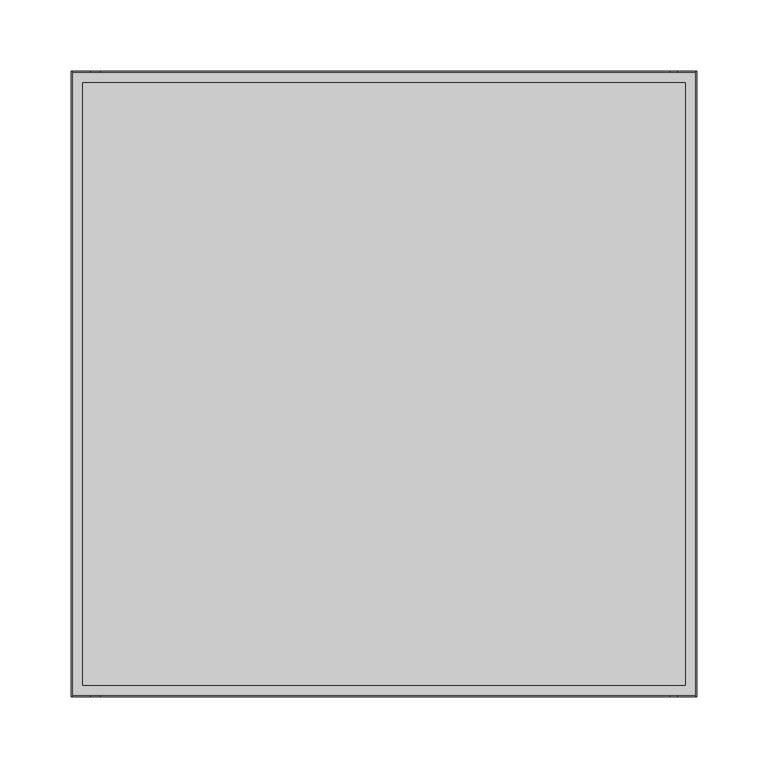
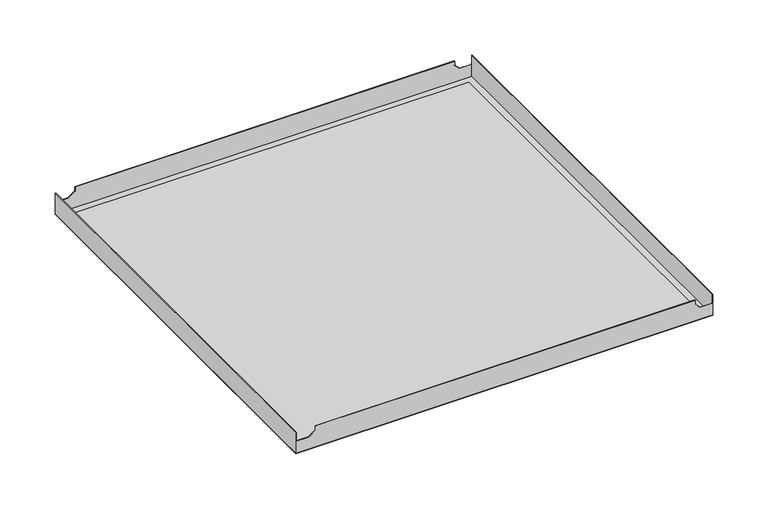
"""IFC4 building model written with IfcOpenShell, lengths in millimetres: proxy geometry, durlum_S1_panel : durlum_S1_panel_wall_corner."""

from ifc_helpers import new_model, si_unit, frame, origin, origin_with_axes, place, context, project, spatial, polyline, outline, extrude, faceted_brep, source, transform, mapped, element, save


def generic_models_eb6e0cd6(model_context):
    return source(origin(), model_context, "Body", "SolidModel", [
        faceted_brep([(-218.75, 218.75, 23.5), (-218.75, -218.75, 23.5), (-218.15, -218.75, 23.5), (-218.15, 218.75, 23.5), (218.75, -218.75, 23.5), (218.75, 218.75, 23.5), (218.15, 218.75, 23.5), (218.15, -218.75, 23.5), (-198.15, 218.75, 23.5), (-198.15, 218.15, 23.5), (200.15, 218.15, 23.5), (200.15, 218.75, 23.5), (-198.15, -218.15, 23.5), (-198.15, -218.75, 23.5), (200.15, -218.75, 23.5), (200.15, -218.15, 23.5), (218.75, 218.75, 0.6), (218.75, -218.75, 0.6), (-218.75, -218.75, 0.6), (-218.75, 218.75, 0.6), (218.15, 218.15, 0.6), (-218.15, 218.15, 0.6), (-218.15, -218.15, 0.6), (218.15, -218.15, 0.6), (-218.15, 218.75, 13.6669893), (-205.4158218, 218.75, 13.6669893), (-198.15, 218.75, 18.9328111), (200.15, 218.75, 18.9469988), (205.4300094, 218.75, 13.6669893), (218.15, 218.75, 13.6669893), (218.15, -218.75, 13.6669893), (205.4300094, -218.75, 13.6669893), (200.15, -218.75, 18.9469988), (-198.15, -218.75, 18.9328111), (-205.4158218, -218.75, 13.6669893), (-218.15, -218.75, 13.6669893), (218.15, 218.15, 13.6669893), (218.15, -218.15, 13.6669893), (-218.15, -218.15, 13.6669893), (-205.4158218, -218.15, 13.6669893), (-198.15, -218.15, 18.9328111), (200.15, -218.15, 18.9469988), (205.4300094, -218.15, 13.6669893), (-218.15, 218.15, 13.6669893), (205.4300094, 218.15, 13.6669893), (200.15, 218.15, 18.9469988), (-198.15, 218.15, 18.9328111), (-205.4158218, 218.15, 13.6669893)], [[[0, 1, 2, 3]], [[4, 5, 6, 7]], [[8, 9, 10, 11]], [[12, 13, 14, 15]], [[16, 17, 18, 19], [20, 21, 22, 23]], [[16, 19, 0, 3, 24, 25, 26, 8, 11, 27, 28, 29, 6, 5]], [[1, 0, 19, 18]], [[18, 17, 4, 7, 30, 31, 32, 14, 13, 33, 34, 35, 2, 1]], [[5, 4, 17, 16]], [[6, 29, 36, 20, 23, 37, 30, 7]], [[23, 22, 38, 39, 40, 12, 15, 41, 42, 37]], [[22, 21, 43, 24, 3, 2, 35, 38]], [[21, 20, 36, 44, 45, 10, 9, 46, 47, 43]], [[38, 35, 34, 39]], [[24, 43, 47, 25]], [[39, 34, 33, 40]], [[25, 47, 46, 26]], [[40, 33, 13, 12]], [[26, 46, 9, 8]], [[36, 29, 28, 44]], [[30, 37, 42, 31]], [[44, 28, 27, 45]], [[31, 42, 41, 32]], [[32, 41, 15, 14]], [[45, 27, 11, 10]]]),
        extrude(outline(polyline([(210.75, 210.75), (210.75, -210.75), (-210.75, -210.75), (-210.75, 210.75), (210.75, 210.75)])), frame((0.0, 0.0, 0.6), z_axis=(0.0, 0.0, 1.0), x_axis=(1.0, 0.0, 0.0)), (0.0, 0.0, 1.0), 0.6),
        extrude(outline(polyline([(218.75, 218.75), (218.75, -218.75), (-218.75, -218.75), (-218.75, 218.75), (218.75, 218.75)]), holes=[polyline([(210.75, 210.75), (-210.75, 210.75), (-210.75, -210.75), (210.75, -210.75), (210.75, 210.75)])]), origin_with_axes(), (0.0, 0.0, 1.0), 0.6),
        extrude(outline(polyline([(210.75, 210.75), (210.75, -210.75), (-210.75, -210.75), (-210.75, 210.75), (210.75, 210.75)])), origin_with_axes(), (0.0, 0.0, 1.0), 0.6),
    ])


if __name__ == "__main__":
    model = new_model("IFC4")
    model_context = context("Model", 3, world=origin())
    ifc_project = project(units=[si_unit("LENGTHUNIT", "METRE", prefix="MILLI")], contexts=[model_context])
    site = spatial("IfcSite", under=ifc_project)
    building = spatial("IfcBuilding", under=site)
    placement = place(None, origin())
    generic_models_shape = generic_models_eb6e0cd6(model_context)
    element("IfcBuildingElementProxy", 1, Name="durlum_S1_panel : durlum_S1_panel_wall_corner", ObjectType="durlum_S1_panel : durlum_S1_panel_wall_corner", at=placement, inside=building, context=model_context, shape_type="MappedRepresentation", body=[
        mapped(generic_models_shape, transform((0.0, 0.0, 0.0), x_axis=(1.0, 0.0, 0.0), y_axis=(0.0, 1.0, 0.0), z_axis=(0.0, 0.0, 1.0))),
    ])
    save(model, "model.ifc")
